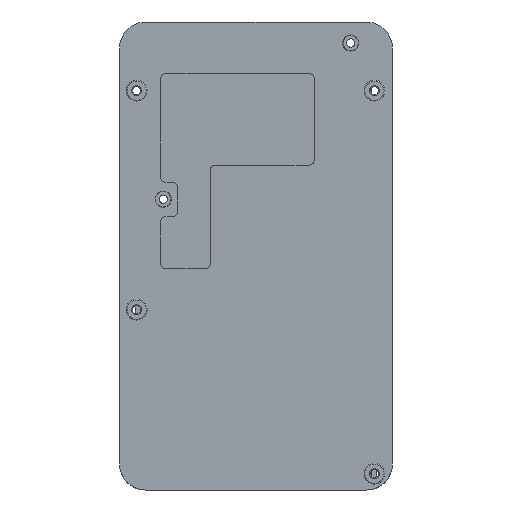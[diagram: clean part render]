
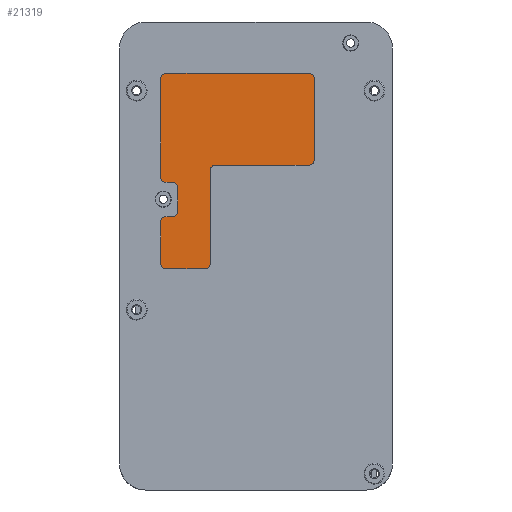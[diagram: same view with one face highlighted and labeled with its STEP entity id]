
A CAD part, front view. The second image highlights one B-rep face of the part: STEP entity #21319.
In plain terms, the highlighted planar face has unit normal (0, -1, 0).
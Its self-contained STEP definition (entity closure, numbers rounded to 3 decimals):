
#16518=DIRECTION('',(0.,0.,1.));
#16519=VECTOR('',#16518,18.972);
#16520=CARTESIAN_POINT('',(0.25,8.428,
60.097));
#16521=LINE('',#16520,#16519);
#16530=DIRECTION('',(1.,0.,0.));
#16531=VECTOR('',#16530,27.5);
#16532=CARTESIAN_POINT('',(1.25,8.428,80.069));
#16533=LINE('',#16532,#16531);
#16542=DIRECTION('',(0.,0.,-1.));
#16543=VECTOR('',#16542,15.645);
#16544=CARTESIAN_POINT('',(29.75,8.428,79.069));
#16545=LINE('',#16544,#16543);
#16554=DIRECTION('',(-1.,0.,0.));
#16555=VECTOR('',#16554,18.);
#16556=CARTESIAN_POINT('',(28.75,8.428,62.424));
#16557=LINE('',#16556,#16555);
#16566=DIRECTION('',(0.,0.,-1.));
#16567=VECTOR('',#16566,17.906);
#16568=CARTESIAN_POINT('',(9.75,8.428,61.424));
#16569=LINE('',#16568,#16567);
#16570=CARTESIAN_POINT('',(1.25,8.428,43.518));
#16571=DIRECTION('',(0.,-1.,0.));
#16572=DIRECTION('',(-1.,0.,0.));
#16573=AXIS2_PLACEMENT_3D('',#16570,#16571,#16572);
#16575=CARTESIAN_POINT('',(1.25,8.428,51.555));
#16576=DIRECTION('',(0.,-1.,0.));
#16577=DIRECTION('',(0.,0.,1.));
#16578=AXIS2_PLACEMENT_3D('',#16575,#16576,#16577);
#16580=CARTESIAN_POINT('',(2.517,8.428,53.555));
#16581=DIRECTION('',(0.,1.,0.));
#16582=DIRECTION('',(1.,0.,0.));
#16583=AXIS2_PLACEMENT_3D('',#16580,#16581,#16582);
#16585=CARTESIAN_POINT('',(2.517,8.428,58.097));
#16586=DIRECTION('',(0.,1.,0.));
#16587=DIRECTION('',(0.,0.,1.));
#16588=AXIS2_PLACEMENT_3D('',#16585,#16586,#16587);
#16590=CARTESIAN_POINT('',(1.25,8.428,60.097));
#16591=DIRECTION('',(0.,-1.,0.));
#16592=DIRECTION('',(-1.,0.,0.));
#16593=AXIS2_PLACEMENT_3D('',#16590,#16591,#16592);
#16595=CARTESIAN_POINT('',(1.25,8.428,79.069));
#16596=DIRECTION('',(0.,-1.,0.));
#16597=DIRECTION('',(0.,0.,1.));
#16598=AXIS2_PLACEMENT_3D('',#16595,#16596,#16597);
#16600=CARTESIAN_POINT('',(28.75,8.428,79.069));
#16601=DIRECTION('',(0.,-1.,0.));
#16602=DIRECTION('',(1.,0.,0.));
#16603=AXIS2_PLACEMENT_3D('',#16600,#16601,#16602);
#16605=CARTESIAN_POINT('',(28.75,8.428,63.424));
#16606=DIRECTION('',(0.,-1.,0.));
#16607=DIRECTION('',(0.,0.,-1.));
#16608=AXIS2_PLACEMENT_3D('',#16605,#16606,#16607);
#16610=CARTESIAN_POINT('',(10.75,8.428,61.424));
#16611=DIRECTION('',(0.,1.,0.));
#16612=DIRECTION('',(-1.,0.,0.));
#16613=AXIS2_PLACEMENT_3D('',#16610,#16611,#16612);
#16615=CARTESIAN_POINT('',(8.75,8.428,43.518));
#16616=DIRECTION('',(0.,-1.,0.));
#16617=DIRECTION('',(0.,0.,-1.));
#16618=AXIS2_PLACEMENT_3D('',#16615,#16616,#16617);
#16620=DIRECTION('',(-1.,0.,0.));
#16621=VECTOR('',#16620,7.5);
#16622=CARTESIAN_POINT('',(8.75,8.428,42.518));
#16623=LINE('',#16622,#16621);
#16632=DIRECTION('',(0.,0.,1.));
#16633=VECTOR('',#16632,8.036);
#16634=CARTESIAN_POINT('',(0.25,8.428,
43.518));
#16635=LINE('',#16634,#16633);
#16644=DIRECTION('',(1.,0.,0.));
#16645=VECTOR('',#16644,1.267);
#16646=CARTESIAN_POINT('',(1.25,8.428,52.555));
#16647=LINE('',#16646,#16645);
#16656=DIRECTION('',(0.,0.,1.));
#16657=VECTOR('',#16656,4.542);
#16658=CARTESIAN_POINT('',(3.517,8.428,53.555));
#16659=LINE('',#16658,#16657);
#16668=DIRECTION('',(-1.,0.,0.));
#16669=VECTOR('',#16668,1.267);
#16670=CARTESIAN_POINT('',(2.517,8.428,59.097));
#16671=LINE('',#16670,#16669);
#16713=CARTESIAN_POINT('',(0.25,8.428,
79.069));
#16715=VERTEX_POINT('',#16713);
#16720=CARTESIAN_POINT('',(1.25,8.428,52.555));
#16722=VERTEX_POINT('',#16720);
#16762=CARTESIAN_POINT('',(0.25,8.428,
43.518));
#16763=CARTESIAN_POINT('',(0.25,8.428,
51.555));
#16764=VERTEX_POINT('',#16762);
#16765=VERTEX_POINT('',#16763);
#16793=CARTESIAN_POINT('',(10.75,8.428,62.424));
#16795=VERTEX_POINT('',#16793);
#16812=CARTESIAN_POINT('',(0.25,8.428,
60.097));
#16813=CARTESIAN_POINT('',(1.25,8.428,59.097));
#16814=VERTEX_POINT('',#16812);
#16815=VERTEX_POINT('',#16813);
#16984=CARTESIAN_POINT('',(1.25,8.428,80.069));
#16985=VERTEX_POINT('',#16984);
#17034=CARTESIAN_POINT('',(28.75,8.428,80.069));
#17035=VERTEX_POINT('',#17034);
#17223=CARTESIAN_POINT('',(2.517,8.428,59.097));
#17224=VERTEX_POINT('',#17223);
#17268=CARTESIAN_POINT('',(2.517,8.428,52.555));
#17269=VERTEX_POINT('',#17268);
#17282=CARTESIAN_POINT('',(3.517,8.428,53.555));
#17283=CARTESIAN_POINT('',(3.517,8.428,58.097));
#17284=VERTEX_POINT('',#17282);
#17285=VERTEX_POINT('',#17283);
#17323=CARTESIAN_POINT('',(8.75,8.428,42.518));
#17324=VERTEX_POINT('',#17323);
#17351=CARTESIAN_POINT('',(1.25,8.428,42.518));
#17352=VERTEX_POINT('',#17351);
#17375=CARTESIAN_POINT('',(28.75,8.428,62.424));
#17376=VERTEX_POINT('',#17375);
#17407=CARTESIAN_POINT('',(9.75,8.428,61.424));
#17408=CARTESIAN_POINT('',(9.75,8.428,43.518));
#17409=VERTEX_POINT('',#17407);
#17410=VERTEX_POINT('',#17408);
#17469=CARTESIAN_POINT('',(29.75,8.428,79.069));
#17470=VERTEX_POINT('',#17469);
#17475=CARTESIAN_POINT('',(29.75,8.428,63.424));
#17476=VERTEX_POINT('',#17475);
#21282=CARTESIAN_POINT('',(0.,8.428,0.));
#21283=DIRECTION('',(0.,-1.,0.));
#21284=DIRECTION('',(0.,0.,-1.));
#21285=AXIS2_PLACEMENT_3D('',#21282,#21283,#21284);
#21286=PLANE('',#21285);
#21288=ORIENTED_EDGE('',*,*,#21287,.T.);
#21290=ORIENTED_EDGE('',*,*,#21289,.F.);
#21292=ORIENTED_EDGE('',*,*,#21291,.T.);
#21294=ORIENTED_EDGE('',*,*,#21293,.F.);
#21296=ORIENTED_EDGE('',*,*,#21295,.T.);
#21298=ORIENTED_EDGE('',*,*,#21297,.F.);
#21300=ORIENTED_EDGE('',*,*,#21299,.T.);
#21302=ORIENTED_EDGE('',*,*,#21301,.F.);
#21304=ORIENTED_EDGE('',*,*,#21303,.T.);
#21305=ORIENTED_EDGE('',*,*,#21149,.F.);
#21306=ORIENTED_EDGE('',*,*,#21164,.T.);
#21307=ORIENTED_EDGE('',*,*,#21178,.F.);
#21308=ORIENTED_EDGE('',*,*,#21192,.T.);
#21309=ORIENTED_EDGE('',*,*,#21206,.F.);
#21310=ORIENTED_EDGE('',*,*,#21220,.T.);
#21311=ORIENTED_EDGE('',*,*,#21234,.F.);
#21312=ORIENTED_EDGE('',*,*,#21248,.T.);
#21313=ORIENTED_EDGE('',*,*,#21262,.F.);
#21314=ORIENTED_EDGE('',*,*,#21273,.T.);
#21316=ORIENTED_EDGE('',*,*,#21315,.F.);
#21317=EDGE_LOOP('',(#21288,#21290,#21292,#21294,#21296,#21298,#21300,#21302,
#21304,#21305,#21306,#21307,#21308,#21309,#21310,#21311,#21312,#21313,#21314,
#21316));
#21318=FACE_OUTER_BOUND('',#21317,.F.);
#21319=ADVANCED_FACE('',(#21318),#21286,.T.);
#16574=CIRCLE('',#16573,1.);
#16579=CIRCLE('',#16578,1.);
#16584=CIRCLE('',#16583,1.);
#16589=CIRCLE('',#16588,1.);
#16594=CIRCLE('',#16593,1.);
#16599=CIRCLE('',#16598,1.);
#16604=CIRCLE('',#16603,1.);
#16609=CIRCLE('',#16608,1.);
#16614=CIRCLE('',#16613,1.);
#16619=CIRCLE('',#16618,1.);
#21149=EDGE_CURVE('',#16814,#16815,#16594,.T.);
#21164=EDGE_CURVE('',#16814,#16715,#16521,.T.);
#21178=EDGE_CURVE('',#16985,#16715,#16599,.T.);
#21192=EDGE_CURVE('',#16985,#17035,#16533,.T.);
#21206=EDGE_CURVE('',#17470,#17035,#16604,.T.);
#21220=EDGE_CURVE('',#17470,#17476,#16545,.T.);
#21234=EDGE_CURVE('',#17376,#17476,#16609,.T.);
#21248=EDGE_CURVE('',#17376,#16795,#16557,.T.);
#21262=EDGE_CURVE('',#17409,#16795,#16614,.T.);
#21273=EDGE_CURVE('',#17409,#17410,#16569,.T.);
#21287=EDGE_CURVE('',#17324,#17352,#16623,.T.);
#21289=EDGE_CURVE('',#16764,#17352,#16574,.T.);
#21291=EDGE_CURVE('',#16764,#16765,#16635,.T.);
#21293=EDGE_CURVE('',#16722,#16765,#16579,.T.);
#21295=EDGE_CURVE('',#16722,#17269,#16647,.T.);
#21297=EDGE_CURVE('',#17284,#17269,#16584,.T.);
#21299=EDGE_CURVE('',#17284,#17285,#16659,.T.);
#21301=EDGE_CURVE('',#17224,#17285,#16589,.T.);
#21303=EDGE_CURVE('',#17224,#16815,#16671,.T.);
#21315=EDGE_CURVE('',#17324,#17410,#16619,.T.);
